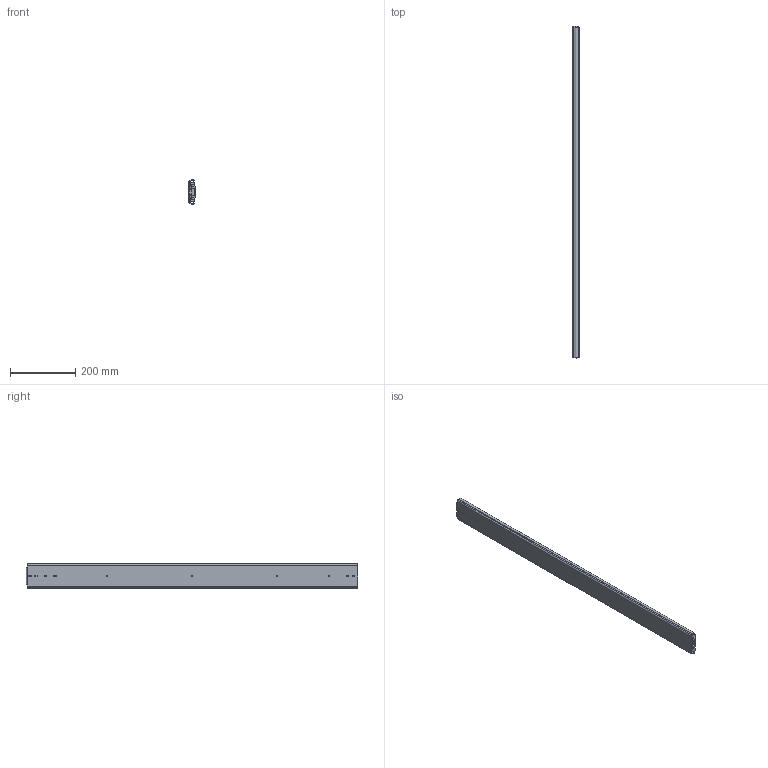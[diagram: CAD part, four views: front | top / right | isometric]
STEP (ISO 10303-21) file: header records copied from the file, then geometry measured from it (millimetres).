
FILE_DESCRIPTION(/* description */ ('Unknown'),/* implementation_level */ '2;1');
FILE_NAME(/* name */ '76J01-40 close',/* time_stamp */ '2024-07-26T16:23:02+08:00',/* author */ ('Unknown'),/* organization */ ('Unknown'),/* preprocessor_version */ 'ST-DEVELOPER v18.104',/* originating_system */ 'Solid Edge',/* authorisation */ 'Unknown');
FILE_SCHEMA (('AUTOMOTIVE_DESIGN {1 0 10303 214 3 1 1}'));
Length unit declared in the file: millimetre
Products named in the file (4): 76J01-40 close; 76J01 40 吋; 76J01 40 inch ¤ºà2á
Assembly tree (3 placements, depth 2):
  76J01-40 close
    76J01 40 吋
    76J01 40 inch ¤ºà2á
    76J01 40 吋
Bounding box: 19.3 x 1016 x 76.76 mm (x, y, z)
Volume: 799896.7 mm3; surface area: 497860.2 mm2
Topology: 3 solids, 3 shells, 193 faces, 595 edges, 402 vertices
Faces by surface type: plane 104, cylinder 89
Full cylindrical faces by diameter (mm): 5.2 x14, 7.1 x2
Entity records: 7062 total; most frequent: CARTESIAN_POINT 1149, DIRECTION 1135, ORIENTED_EDGE 1126, EDGE_CURVE 563, VERTEX_POINT 386, LINE 383, VECTOR 383, AXIS2_PLACEMENT_3D 376
